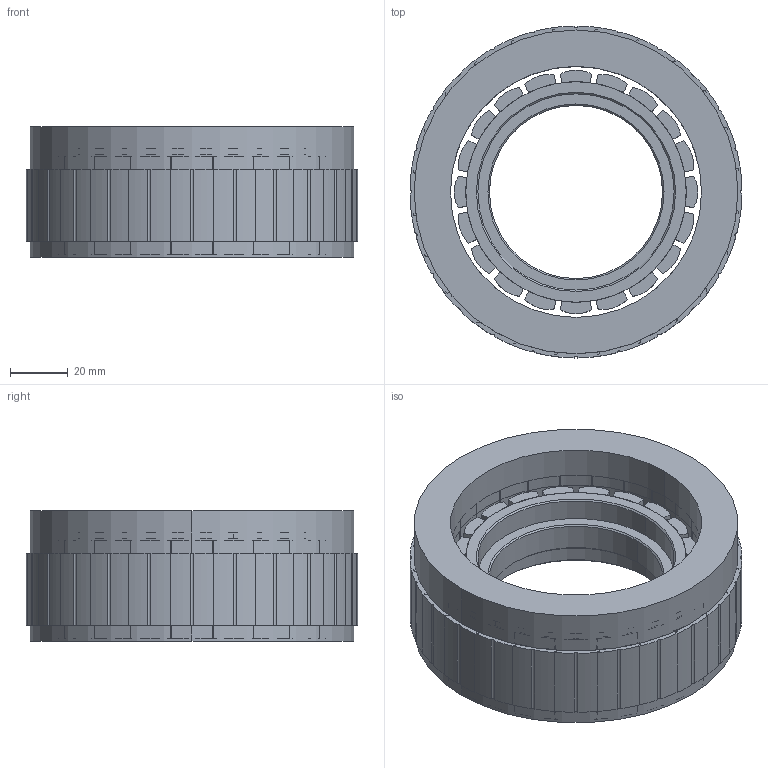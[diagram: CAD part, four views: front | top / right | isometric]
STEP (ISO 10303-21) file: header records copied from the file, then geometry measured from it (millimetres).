
FILE_DESCRIPTION (( 'STEP AP214' ), '1' );
FILE_NAME ('307091668 拸遺薯撻萇儂 (FMC11525-0117-3260N-10DS00)-V1.0.STEP', '2025-08-28T09:14:37', ( '' ), ( '' ), 'SwSTEP 2.0', 'SolidWorks 2023', '' );
FILE_SCHEMA (( 'AUTOMOTIVE_DESIGN' ));
Length unit declared in the file: millimetre
Products named in the file (1): 307091668  无框力矩电机  (FMC11525-0117-3260N-10DS00)-V1.0
Bounding box: 114.99 x 114.99 x 45.3 mm (x, y, z)
Volume: 224184.7 mm3; surface area: 125547.2 mm2
Topology: 48 solids, 48 shells, 2199 faces, 5527 edges, 3426 vertices
Faces by surface type: plane 906, cylinder 709, bspline 384, cone 104, torus 96
Entity records: 68965 total; most frequent: CARTESIAN_POINT 18161, ORIENTED_EDGE 10862, DIRECTION 10105, EDGE_CURVE 5431, AXIS2_PLACEMENT_3D 3530, VERTEX_POINT 3426, LINE 3045, VECTOR 3045
